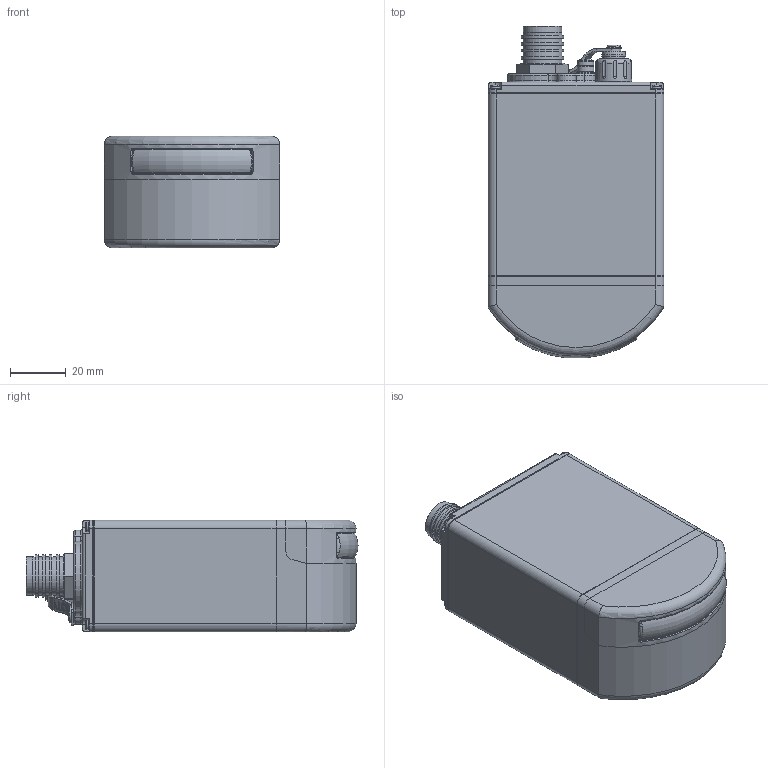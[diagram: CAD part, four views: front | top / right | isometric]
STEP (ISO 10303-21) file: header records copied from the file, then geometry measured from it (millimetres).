
FILE_DESCRIPTION (( 'STEP AP214' ), '1' );
FILE_NAME ('0729-CTF-00021-01.STEP', '2018-02-19T08:56:50', ( '' ), ( '' ), 'SwSTEP 2.0', 'SolidWorks 2015', '' );
FILE_SCHEMA (( 'AUTOMOTIVE_DESIGN' ));
Length unit declared in the file: inch
Products named in the file (2): 0729-CTF-00021-01
Bounding box: 63 x 118.85 x 40 mm (x, y, z)
Surface area: 31297.6 mm2 (no closed solid volume)
Topology: 0 solids, 22 shells, 530 faces, 1504 edges, 990 vertices
Faces by surface type: cylinder 177, plane 175, torus 77, cone 47, sphere 33, bspline 21
Full cylindrical faces by diameter (mm): 0.787 x12, 1.321 x12, 1.5 x1, 2.5 x1, 5.8 x1, 6 x2, 6.35 x1, 8 x1, 8.2 x1, 8.5 x1, 11.328 x1, 11.43 x1, 11.509 x1, 12.294 x1, 12.7 x1, 13 x1, 13.716 x1, 13.872 x5, 15.215 x4, 15.621 x1
Entity records: 22930 total; most frequent: CARTESIAN_POINT 4799, DIRECTION 2649, ORIENTED_EDGE 2368, EDGE_CURVE 1316, AXIS2_PLACEMENT_3D 1042, VERTEX_POINT 930, EDGE_LOOP 701, FACE_OUTER_BOUND 598
